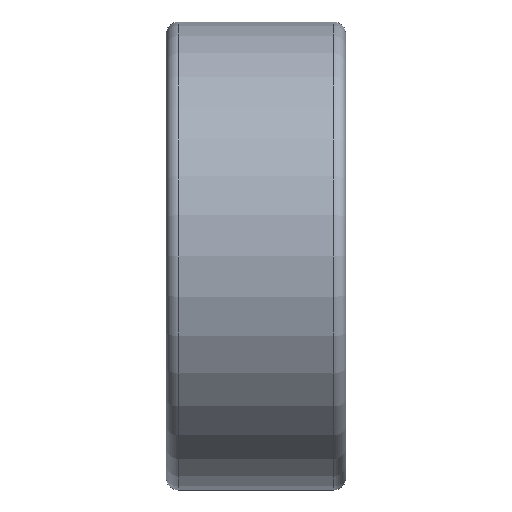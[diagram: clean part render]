
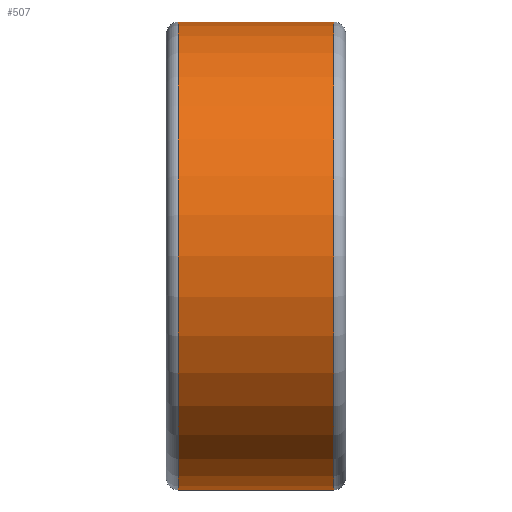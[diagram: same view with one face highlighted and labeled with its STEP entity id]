
A CAD part, front view. The second image highlights one B-rep face of the part: STEP entity #507.
In plain terms, the highlighted cylindrical face has radius 3 mm (diameter 6 mm), a partial arc.
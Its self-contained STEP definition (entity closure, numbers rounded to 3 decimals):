
#14 = EDGE_CURVE ( 'NONE', #754, #739, #572, .T. ) ;
#16 = EDGE_CURVE ( 'NONE', #738, #754, #537, .T. ) ;
#30 = EDGE_CURVE ( 'NONE', #752, #739, #554, .T. ) ;
#37 = AXIS2_PLACEMENT_3D ( 'NONE', #418, #428, #420 ) ;
#58 = EDGE_CURVE ( 'NONE', #738, #752, #578, .T. ) ;
#74 = AXIS2_PLACEMENT_3D ( 'NONE', #225, #226, #227 ) ;
#105 = AXIS2_PLACEMENT_3D ( 'NONE', #279, #283, #293 ) ;
#169 = CYLINDRICAL_SURFACE ( 'NONE', #37, 3. ) ;
#180 = FACE_OUTER_BOUND ( 'NONE', #528, .T. ) ;
#209 = CARTESIAN_POINT ( 'NONE',  ( -20.637, 0., 3. ) ) ;
#224 = DIRECTION ( 'NONE',  ( 1., 0., 0. ) ) ;
#225 = CARTESIAN_POINT ( 'NONE',  ( 1., 0., 0. ) ) ;
#226 = DIRECTION ( 'NONE',  ( 1., 0., 0. ) ) ;
#227 = DIRECTION ( 'NONE',  ( 0., 0., -1. ) ) ;
#256 = DIRECTION ( 'NONE',  ( 1., 0., 0. ) ) ;
#271 = CARTESIAN_POINT ( 'NONE',  ( -20.637, 0., -3. ) ) ;
#279 = CARTESIAN_POINT ( 'NONE',  ( -1., 0., 0. ) ) ;
#283 = DIRECTION ( 'NONE',  ( 1., 0., 0. ) ) ;
#293 = DIRECTION ( 'NONE',  ( 0., 0., -1. ) ) ;
#418 = CARTESIAN_POINT ( 'NONE',  ( -20.637, 0., 0. ) ) ;
#420 = DIRECTION ( 'NONE',  ( 0., 0., -1. ) ) ;
#428 = DIRECTION ( 'NONE',  ( 1., 0., 0. ) ) ;
#439 = CARTESIAN_POINT ( 'NONE',  ( -1., 0., 3. ) ) ;
#455 = CARTESIAN_POINT ( 'NONE',  ( 1., 0., -3. ) ) ;
#462 = CARTESIAN_POINT ( 'NONE',  ( 1., 0., 3. ) ) ;
#472 = CARTESIAN_POINT ( 'NONE',  ( -1., 0., -3. ) ) ;
#507 = ADVANCED_FACE ( 'NONE', ( #180 ), #169, .T. ) ;
#528 = EDGE_LOOP ( 'NONE', ( #653, #650, #675, #654 ) ) ;
#531 = VECTOR ( 'NONE', #256, 1000. ) ;
#537 = LINE ( 'NONE', #209, #556 ) ;
#554 = LINE ( 'NONE', #271, #531 ) ;
#556 = VECTOR ( 'NONE', #224, 1000. ) ;
#572 = CIRCLE ( 'NONE', #74, 3. ) ;
#578 = CIRCLE ( 'NONE', #105, 3. ) ;
#650 = ORIENTED_EDGE ( 'NONE', *, *, #58, .T. ) ;
#653 = ORIENTED_EDGE ( 'NONE', *, *, #16, .F. ) ;
#654 = ORIENTED_EDGE ( 'NONE', *, *, #14, .F. ) ;
#675 = ORIENTED_EDGE ( 'NONE', *, *, #30, .T. ) ;
#738 = VERTEX_POINT ( 'NONE', #439 ) ;
#739 = VERTEX_POINT ( 'NONE', #455 ) ;
#752 = VERTEX_POINT ( 'NONE', #472 ) ;
#754 = VERTEX_POINT ( 'NONE', #462 ) ;
